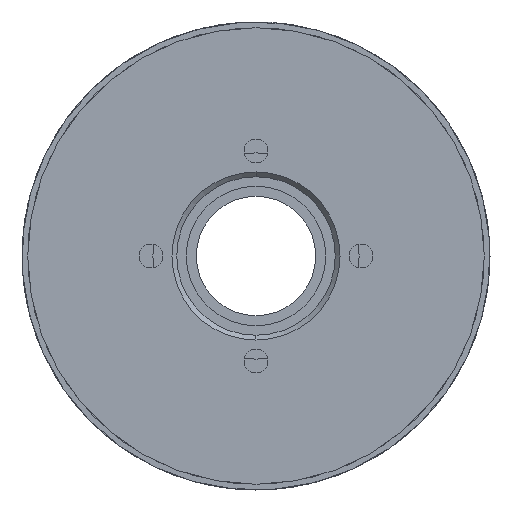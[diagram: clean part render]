
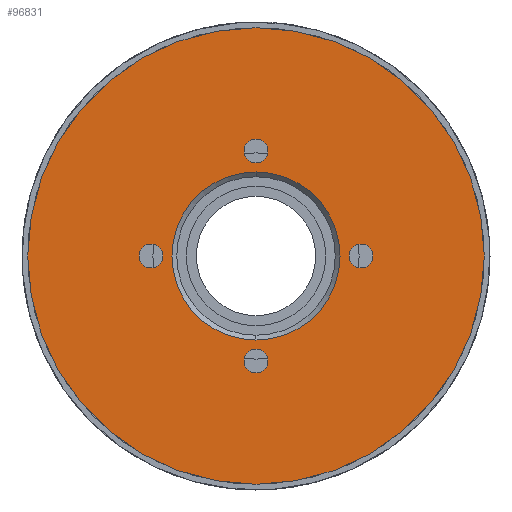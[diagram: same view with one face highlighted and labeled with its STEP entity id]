
A CAD part, left-side view. The second image highlights one B-rep face of the part: STEP entity #96831.
In plain terms, the highlighted planar face has unit normal (-1, 0, 0).
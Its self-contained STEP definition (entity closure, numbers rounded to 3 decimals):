
#794 = EDGE_CURVE ( 'NONE', #174038, #116268, #120183, .T. ) ;
#1493 = ORIENTED_EDGE ( 'NONE', *, *, #100324, .F. ) ;
#5762 = CARTESIAN_POINT ( 'NONE',  ( 0., -11., 0. ) ) ;
#7936 = DIRECTION ( 'NONE',  ( 0., 0., 1. ) ) ;
#8488 = CARTESIAN_POINT ( 'NONE',  ( 0., 11., 0. ) ) ;
#11329 = EDGE_CURVE ( 'NONE', #74934, #167526, #126616, .T. ) ;
#13805 = CIRCLE ( 'NONE', #119339, 1.25 ) ;
#20768 = ORIENTED_EDGE ( 'NONE', *, *, #133004, .F. ) ;
#20885 = DIRECTION ( 'NONE',  ( 0., 0., -1. ) ) ;
#22503 = EDGE_LOOP ( 'NONE', ( #170464, #41847 ) ) ;
#22706 = CIRCLE ( 'NONE', #296972, 1.25 ) ;
#29809 = VERTEX_POINT ( 'NONE', #167504 ) ;
#31884 = CARTESIAN_POINT ( 'NONE',  ( 0., 0., -11. ) ) ;
#35390 = CARTESIAN_POINT ( 'NONE',  ( 0., 0., -12.25 ) ) ;
#38272 = CARTESIAN_POINT ( 'NONE',  ( 0., -11., 1.25 ) ) ;
#38813 = CARTESIAN_POINT ( 'NONE',  ( 0., 0., -9.75 ) ) ;
#41847 = ORIENTED_EDGE ( 'NONE', *, *, #131348, .F. ) ;
#43893 = CARTESIAN_POINT ( 'NONE',  ( 0., 23.9, 0. ) ) ;
#45477 = AXIS2_PLACEMENT_3D ( 'NONE', #70294, #184739, #48185 ) ;
#46429 = DIRECTION ( 'NONE',  ( 0., 0., 1. ) ) ;
#46672 = CARTESIAN_POINT ( 'NONE',  ( 0., 0., 0. ) ) ;
#48185 = DIRECTION ( 'NONE',  ( 0., 0., 1. ) ) ;
#48450 = CARTESIAN_POINT ( 'NONE',  ( 0., 0., 8.8 ) ) ;
#54603 = CARTESIAN_POINT ( 'NONE',  ( 0., 11., -1.25 ) ) ;
#56804 = ORIENTED_EDGE ( 'NONE', *, *, #11329, .F. ) ;
#60396 = AXIS2_PLACEMENT_3D ( 'NONE', #5762, #124289, #173704 ) ;
#62734 = EDGE_CURVE ( 'NONE', #116268, #174038, #160370, .T. ) ;
#65373 = DIRECTION ( 'NONE',  ( 0., 0., 1. ) ) ;
#65438 = DIRECTION ( 'NONE',  ( -1., 0., 0. ) ) ;
#67007 = AXIS2_PLACEMENT_3D ( 'NONE', #290416, #197936, #269402 ) ;
#70294 = CARTESIAN_POINT ( 'NONE',  ( 0., -11., 0. ) ) ;
#72581 = VERTEX_POINT ( 'NONE', #88469 ) ;
#72646 = AXIS2_PLACEMENT_3D ( 'NONE', #8488, #153310, #154331 ) ;
#73275 = EDGE_CURVE ( 'NONE', #29809, #100955, #82781, .T. ) ;
#73752 = CARTESIAN_POINT ( 'NONE',  ( 0., 0., 11. ) ) ;
#74118 = DIRECTION ( 'NONE',  ( 1., 0., 0. ) ) ;
#74934 = VERTEX_POINT ( 'NONE', #203636 ) ;
#80256 = DIRECTION ( 'NONE',  ( -1., 0., 0. ) ) ;
#81885 = VERTEX_POINT ( 'NONE', #38813 ) ;
#82343 = CARTESIAN_POINT ( 'NONE',  ( 0., 0., -11. ) ) ;
#82781 = CIRCLE ( 'NONE', #45477, 1.25 ) ;
#83742 = EDGE_LOOP ( 'NONE', ( #221482, #92632 ) ) ;
#85775 = VERTEX_POINT ( 'NONE', #48450 ) ;
#87845 = AXIS2_PLACEMENT_3D ( 'NONE', #164244, #65438, #91696 ) ;
#88469 = CARTESIAN_POINT ( 'NONE',  ( 0., 0., 9.75 ) ) ;
#90137 = PLANE ( 'NONE',  #286842 ) ;
#90950 = AXIS2_PLACEMENT_3D ( 'NONE', #82343, #154864, #299745 ) ;
#91209 = EDGE_LOOP ( 'NONE', ( #201055, #1493 ) ) ;
#91696 = DIRECTION ( 'NONE',  ( 0., 0., 1. ) ) ;
#92632 = ORIENTED_EDGE ( 'NONE', *, *, #62734, .F. ) ;
#92814 = ORIENTED_EDGE ( 'NONE', *, *, #126664, .F. ) ;
#94122 = VERTEX_POINT ( 'NONE', #192683 ) ;
#96831 = ADVANCED_FACE ( 'NONE', ( #272098, #117920, #110416, #253340, #144308, #264580 ), #90137, .F. ) ;
#100324 = EDGE_CURVE ( 'NONE', #242516, #81885, #13805, .T. ) ;
#100955 = VERTEX_POINT ( 'NONE', #38272 ) ;
#104039 = EDGE_CURVE ( 'NONE', #100955, #29809, #258982, .T. ) ;
#110416 = FACE_BOUND ( 'NONE', #122880, .T. ) ;
#116268 = VERTEX_POINT ( 'NONE', #54603 ) ;
#117736 = CARTESIAN_POINT ( 'NONE',  ( 0., 0., 0. ) ) ;
#117920 = FACE_BOUND ( 'NONE', #91209, .T. ) ;
#119076 = DIRECTION ( 'NONE',  ( -1., 0., 0. ) ) ;
#119339 = AXIS2_PLACEMENT_3D ( 'NONE', #31884, #297465, #272331 ) ;
#120183 = CIRCLE ( 'NONE', #72646, 1.25 ) ;
#122880 = EDGE_LOOP ( 'NONE', ( #222482, #284262 ) ) ;
#124289 = DIRECTION ( 'NONE',  ( -1., 0., 0. ) ) ;
#126616 = CIRCLE ( 'NONE', #241871, 23.9 ) ;
#126664 = EDGE_CURVE ( 'NONE', #167526, #74934, #295379, .T. ) ;
#131348 = EDGE_CURVE ( 'NONE', #172881, #85775, #176443, .T. ) ;
#133004 = EDGE_CURVE ( 'NONE', #94122, #72581, #287161, .T. ) ;
#144308 = FACE_BOUND ( 'NONE', #246593, .T. ) ;
#153310 = DIRECTION ( 'NONE',  ( -1., 0., 0. ) ) ;
#154331 = DIRECTION ( 'NONE',  ( 0., 0., 1. ) ) ;
#154864 = DIRECTION ( 'NONE',  ( -1., 0., 0. ) ) ;
#155810 = CIRCLE ( 'NONE', #67007, 8.8 ) ;
#160370 = CIRCLE ( 'NONE', #288321, 1.25 ) ;
#164244 = CARTESIAN_POINT ( 'NONE',  ( 0., 0., 11. ) ) ;
#167504 = CARTESIAN_POINT ( 'NONE',  ( 0., -11., -1.25 ) ) ;
#167526 = VERTEX_POINT ( 'NONE', #280358 ) ;
#170464 = ORIENTED_EDGE ( 'NONE', *, *, #202566, .F. ) ;
#172881 = VERTEX_POINT ( 'NONE', #179277 ) ;
#173704 = DIRECTION ( 'NONE',  ( 0., 0., 1. ) ) ;
#174038 = VERTEX_POINT ( 'NONE', #195329 ) ;
#176443 = CIRCLE ( 'NONE', #185869, 8.8 ) ;
#179277 = CARTESIAN_POINT ( 'NONE',  ( 0., 0., -8.8 ) ) ;
#184739 = DIRECTION ( 'NONE',  ( -1., 0., 0. ) ) ;
#185869 = AXIS2_PLACEMENT_3D ( 'NONE', #46672, #119076, #311464 ) ;
#188798 = EDGE_LOOP ( 'NONE', ( #56804, #92814 ) ) ;
#190119 = ORIENTED_EDGE ( 'NONE', *, *, #235740, .F. ) ;
#192683 = CARTESIAN_POINT ( 'NONE',  ( 0., 0., 12.25 ) ) ;
#195329 = CARTESIAN_POINT ( 'NONE',  ( 0., 11., 1.25 ) ) ;
#197936 = DIRECTION ( 'NONE',  ( -1., 0., 0. ) ) ;
#201055 = ORIENTED_EDGE ( 'NONE', *, *, #274672, .F. ) ;
#202566 = EDGE_CURVE ( 'NONE', #85775, #172881, #155810, .T. ) ;
#203636 = CARTESIAN_POINT ( 'NONE',  ( 0., 0., 23.9 ) ) ;
#221482 = ORIENTED_EDGE ( 'NONE', *, *, #794, .F. ) ;
#222482 = ORIENTED_EDGE ( 'NONE', *, *, #104039, .F. ) ;
#235740 = EDGE_CURVE ( 'NONE', #72581, #94122, #22706, .T. ) ;
#236847 = CARTESIAN_POINT ( 'NONE',  ( 0., 0., 0. ) ) ;
#241871 = AXIS2_PLACEMENT_3D ( 'NONE', #236847, #74118, #242153 ) ;
#242153 = DIRECTION ( 'NONE',  ( 0., 0., 1. ) ) ;
#242516 = VERTEX_POINT ( 'NONE', #35390 ) ;
#246593 = EDGE_LOOP ( 'NONE', ( #20768, #190119 ) ) ;
#247267 = CARTESIAN_POINT ( 'NONE',  ( 0., 11., 0. ) ) ;
#253340 = FACE_BOUND ( 'NONE', #83742, .T. ) ;
#258982 = CIRCLE ( 'NONE', #60396, 1.25 ) ;
#260397 = AXIS2_PLACEMENT_3D ( 'NONE', #117736, #308040, #65373 ) ;
#264580 = FACE_BOUND ( 'NONE', #22503, .T. ) ;
#265957 = DIRECTION ( 'NONE',  ( -1., 0., 0. ) ) ;
#269402 = DIRECTION ( 'NONE',  ( 0., 0., 1. ) ) ;
#272098 = FACE_OUTER_BOUND ( 'NONE', #188798, .T. ) ;
#272331 = DIRECTION ( 'NONE',  ( 0., 0., 1. ) ) ;
#274672 = EDGE_CURVE ( 'NONE', #81885, #242516, #295266, .T. ) ;
#280358 = CARTESIAN_POINT ( 'NONE',  ( 0., 0., -23.9 ) ) ;
#284262 = ORIENTED_EDGE ( 'NONE', *, *, #73275, .F. ) ;
#286842 = AXIS2_PLACEMENT_3D ( 'NONE', #43893, #307578, #20885 ) ;
#287161 = CIRCLE ( 'NONE', #87845, 1.25 ) ;
#288321 = AXIS2_PLACEMENT_3D ( 'NONE', #247267, #80256, #7936 ) ;
#290416 = CARTESIAN_POINT ( 'NONE',  ( 0., 0., 0. ) ) ;
#295266 = CIRCLE ( 'NONE', #90950, 1.25 ) ;
#295379 = CIRCLE ( 'NONE', #260397, 23.9 ) ;
#296972 = AXIS2_PLACEMENT_3D ( 'NONE', #73752, #265957, #46429 ) ;
#297465 = DIRECTION ( 'NONE',  ( -1., 0., 0. ) ) ;
#299745 = DIRECTION ( 'NONE',  ( 0., 0., 1. ) ) ;
#307578 = DIRECTION ( 'NONE',  ( 1., 0., 0. ) ) ;
#308040 = DIRECTION ( 'NONE',  ( 1., 0., 0. ) ) ;
#311464 = DIRECTION ( 'NONE',  ( 0., 0., 1. ) ) ;
